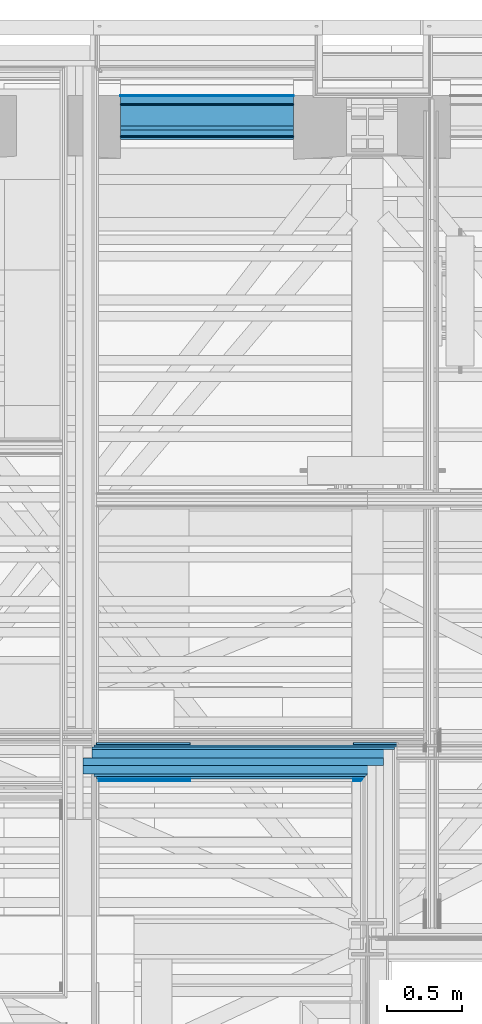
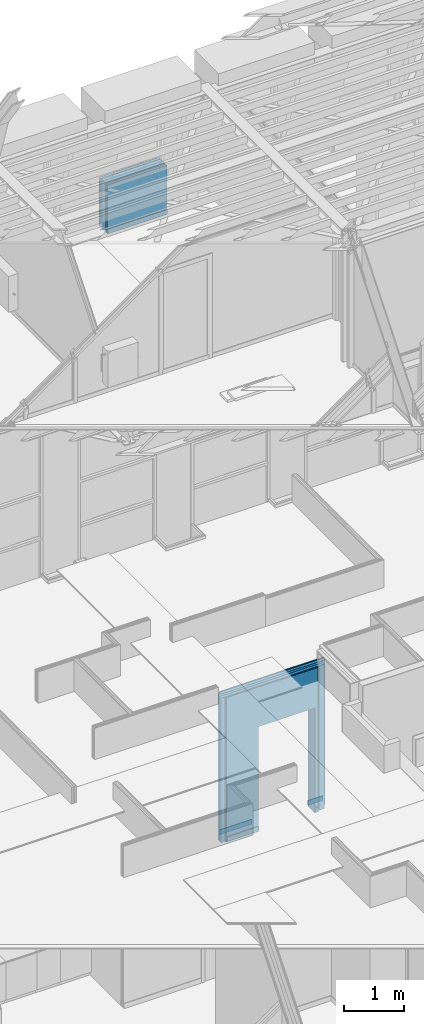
# One storey, part 42 of 183: 17 building element parts, 2 openings, 2 elements without a shape of their own.
"""IFC2X3 building model written with IfcOpenShell, lengths in metres."""

from ifc_helpers import new_model, entity, si_unit, converted_unit, derived_unit, money_unit, direction, frame, frame_2d, origin_with_axes, place, context, subcontext, project, spatial, polyline, rectangle, outline, extrude, material, type_object, element, aggregate, save


model = new_model("IFC2X3")

# Units and contexts
model_context = context("Model", 3, precision=1e-05, world=origin_with_axes(), true_north=direction((0.0, 1.0)))
body_context = subcontext(model_context, "Body", "Model", "MODEL_VIEW", scale=1.0)
ifc_project = project(units=[si_unit("LENGTHUNIT", "METRE"), si_unit("AREAUNIT", "SQUARE_METRE"), si_unit("VOLUMEUNIT", "CUBIC_METRE"), si_unit("ABSORBEDDOSEUNIT", "GRAY"), si_unit("AMOUNTOFSUBSTANCEUNIT", "MOLE"), si_unit("DOSEEQUIVALENTUNIT", "SIEVERT"), si_unit("ELECTRICCAPACITANCEUNIT", "FARAD"), si_unit("ELECTRICCHARGEUNIT", "COULOMB"), si_unit("ELECTRICCONDUCTANCEUNIT", "SIEMENS"), si_unit("ELECTRICCURRENTUNIT", "AMPERE"), si_unit("ELECTRICRESISTANCEUNIT", "OHM"), si_unit("ELECTRICVOLTAGEUNIT", "VOLT"), si_unit("ENERGYUNIT", "JOULE"), si_unit("FORCEUNIT", "NEWTON"), si_unit("FREQUENCYUNIT", "HERTZ"), si_unit("ILLUMINANCEUNIT", "LUX"), si_unit("INDUCTANCEUNIT", "HENRY"), si_unit("LUMINOUSFLUXUNIT", "LUMEN"), si_unit("LUMINOUSINTENSITYUNIT", "CANDELA"), si_unit("MAGNETICFLUXDENSITYUNIT", "TESLA"), si_unit("MAGNETICFLUXUNIT", "WEBER"), si_unit("MASSUNIT", "GRAM"), converted_unit("PLANEANGLEUNIT", "degree", entity("IfcReal", 0.0174532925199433), si_unit("PLANEANGLEUNIT", "RADIAN"), dimensions=[0, 0, 0, 0, 0, 0, 0]), si_unit("POWERUNIT", "WATT"), si_unit("PRESSUREUNIT", "PASCAL"), si_unit("RADIOACTIVITYUNIT", "BECQUEREL"), si_unit("SOLIDANGLEUNIT", "STERADIAN"), si_unit("THERMODYNAMICTEMPERATUREUNIT", "KELVIN"), si_unit("TIMEUNIT", "SECOND"), derived_unit("ACCELERATIONUNIT", [(si_unit("LENGTHUNIT", "METRE"), 1), (si_unit("TIMEUNIT", "SECOND"), -2)]), derived_unit("ANGULARVELOCITYUNIT", [(converted_unit("PLANEANGLEUNIT", "degree", entity("IfcReal", 0.0174532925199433), si_unit("PLANEANGLEUNIT", "RADIAN"), dimensions=[0, 0, 0, 0, 0, 0, 0]), 1), (si_unit("TIMEUNIT", "SECOND"), -1)]), derived_unit("CURVATUREUNIT", [(converted_unit("PLANEANGLEUNIT", "degree", entity("IfcReal", 0.0174532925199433), si_unit("PLANEANGLEUNIT", "RADIAN"), dimensions=[0, 0, 0, 0, 0, 0, 0]), 1), (si_unit("LENGTHUNIT", "METRE"), -1)]), derived_unit("DYNAMICVISCOSITYUNIT", [(si_unit("PRESSUREUNIT", "PASCAL"), 1), (si_unit("TIMEUNIT", "SECOND"), 1)]), derived_unit("HEATFLUXDENSITYUNIT", [(si_unit("POWERUNIT", "WATT"), 1), (si_unit("LENGTHUNIT", "METRE"), -2)]), derived_unit("HEATINGVALUEUNIT", [(si_unit("ENERGYUNIT", "JOULE"), 1), (si_unit("MASSUNIT", "GRAM"), -1)]), derived_unit("INTEGERCOUNTRATEUNIT", [(si_unit("TIMEUNIT", "SECOND"), -1)]), derived_unit("IONCONCENTRATIONUNIT", [(si_unit("MASSUNIT", "GRAM"), 1), (si_unit("VOLUMEUNIT", "CUBIC_METRE"), -1)]), derived_unit("ISOTHERMALMOISTURECAPACITYUNIT", [(si_unit("VOLUMEUNIT", "CUBIC_METRE"), 1), (si_unit("MASSUNIT", "GRAM"), -1)]), derived_unit("KINEMATICVISCOSITYUNIT", [(si_unit("AREAUNIT", "SQUARE_METRE"), 1), (si_unit("TIMEUNIT", "SECOND"), -1)]), derived_unit("LINEARFORCEUNIT", [(si_unit("FORCEUNIT", "NEWTON"), 1), (si_unit("LENGTHUNIT", "METRE"), -1)]), derived_unit("LINEARMOMENTUNIT", [(si_unit("FORCEUNIT", "NEWTON"), 1), (si_unit("LENGTHUNIT", "METRE"), -1)]), derived_unit("LINEARSTIFFNESSUNIT", [(si_unit("FORCEUNIT", "NEWTON"), 1), (si_unit("LENGTHUNIT", "METRE"), -1)]), derived_unit("LINEARVELOCITYUNIT", [(si_unit("LENGTHUNIT", "METRE"), 1), (si_unit("TIMEUNIT", "SECOND"), -1)]), derived_unit("LUMINOUSINTENSITYDISTRIBUTIONUNIT", [(si_unit("LUMINOUSINTENSITYUNIT", "CANDELA"), 1), (si_unit("LUMINOUSFLUXUNIT", "LUMEN"), -1)]), derived_unit("MASSDENSITYUNIT", [(si_unit("MASSUNIT", "GRAM"), 1), (si_unit("VOLUMEUNIT", "CUBIC_METRE"), -1)]), derived_unit("MASSFLOWRATEUNIT", [(si_unit("MASSUNIT", "GRAM"), 1), (si_unit("TIMEUNIT", "SECOND"), -1)]), derived_unit("MASSPERLENGTHUNIT", [(si_unit("MASSUNIT", "GRAM"), 1), (si_unit("LENGTHUNIT", "METRE"), -1)]), derived_unit("MODULUSOFELASTICITYUNIT", [(si_unit("FORCEUNIT", "NEWTON"), 1), (si_unit("AREAUNIT", "SQUARE_METRE"), -1)]), derived_unit("MODULUSOFLINEARSUBGRADEREACTIONUNIT", [(si_unit("FORCEUNIT", "NEWTON"), 1), (si_unit("LENGTHUNIT", "METRE"), -2)]), derived_unit("MODULUSOFROTATIONALSUBGRADEREACTIONUNIT", [(si_unit("FORCEUNIT", "NEWTON"), 1), (si_unit("LENGTHUNIT", "METRE"), 1)]), derived_unit("MODULUSOFSUBGRADEREACTIONUNIT", [(si_unit("FORCEUNIT", "NEWTON"), 1), (si_unit("VOLUMEUNIT", "CUBIC_METRE"), -1)]), derived_unit("MOISTUREDIFFUSIVITYUNIT", [(si_unit("VOLUMEUNIT", "CUBIC_METRE"), 1), (si_unit("TIMEUNIT", "SECOND"), -1)]), derived_unit("MOLECULARWEIGHTUNIT", [(si_unit("MASSUNIT", "GRAM"), 1), (si_unit("AMOUNTOFSUBSTANCEUNIT", "MOLE"), -1)]), derived_unit("PLANARFORCEUNIT", [(si_unit("FORCEUNIT", "NEWTON"), 1), (si_unit("LENGTHUNIT", "METRE"), -2)]), derived_unit("ROTATIONALFREQUENCYUNIT", [(si_unit("TIMEUNIT", "SECOND"), -1)]), derived_unit("ROTATIONALMASSUNIT", [(si_unit("MASSUNIT", "GRAM"), 1), (si_unit("LENGTHUNIT", "METRE"), 2)]), derived_unit("ROTATIONALSTIFFNESSUNIT", [(si_unit("FORCEUNIT", "NEWTON"), 1), (si_unit("LENGTHUNIT", "METRE"), 1), (converted_unit("PLANEANGLEUNIT", "degree", entity("IfcReal", 0.0174532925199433), si_unit("PLANEANGLEUNIT", "RADIAN"), dimensions=[0, 0, 0, 0, 0, 0, 0]), -1)]), derived_unit("SECTIONAREAINTEGRALUNIT", [(si_unit("LENGTHUNIT", "METRE"), 5)]), derived_unit("SECTIONMODULUSUNIT", [(si_unit("LENGTHUNIT", "METRE"), 3)]), derived_unit("SHEARMODULUSUNIT", [(si_unit("FORCEUNIT", "NEWTON"), 1), (si_unit("AREAUNIT", "SQUARE_METRE"), -1)]), derived_unit("SOUNDPOWERUNIT", [(si_unit("ENERGYUNIT", "JOULE"), 1), (si_unit("TIMEUNIT", "SECOND"), -1)]), derived_unit("SPECIFICHEATCAPACITYUNIT", [(si_unit("FORCEUNIT", "NEWTON"), 1), (si_unit("MASSUNIT", "GRAM"), -1), (si_unit("THERMODYNAMICTEMPERATUREUNIT", "KELVIN"), -1)]), derived_unit("TEMPERATUREGRADIENTUNIT", [(si_unit("THERMODYNAMICTEMPERATUREUNIT", "KELVIN"), 1), (si_unit("LENGTHUNIT", "METRE"), -1)]), derived_unit("THERMALADMITTANCEUNIT", [(si_unit("POWERUNIT", "WATT"), 1), (si_unit("AREAUNIT", "SQUARE_METRE"), -1), (si_unit("THERMODYNAMICTEMPERATUREUNIT", "KELVIN"), -1)]), derived_unit("THERMALCONDUCTANCEUNIT", [(si_unit("POWERUNIT", "WATT"), 1), (si_unit("LENGTHUNIT", "METRE"), -1), (si_unit("THERMODYNAMICTEMPERATUREUNIT", "KELVIN"), -1)]), derived_unit("THERMALEXPANSIONCOEFFICIENTUNIT", [(si_unit("THERMODYNAMICTEMPERATUREUNIT", "KELVIN"), -1)]), derived_unit("THERMALRESISTANCEUNIT", [(si_unit("AREAUNIT", "SQUARE_METRE"), 1), (si_unit("POWERUNIT", "WATT"), -1)]), derived_unit("THERMALTRANSMITTANCEUNIT", [(si_unit("POWERUNIT", "WATT"), 1), (si_unit("AREAUNIT", "SQUARE_METRE"), -1), (si_unit("THERMODYNAMICTEMPERATUREUNIT", "KELVIN"), -1)]), derived_unit("TORQUEUNIT", [(si_unit("FORCEUNIT", "NEWTON"), 1), (si_unit("LENGTHUNIT", "METRE"), 1)]), derived_unit("VAPORPERMEABILITYUNIT", [(si_unit("MASSUNIT", "GRAM"), 1), (si_unit("TIMEUNIT", "SECOND"), -1)]), derived_unit("VOLUMETRICFLOWRATEUNIT", [(si_unit("VOLUMEUNIT", "CUBIC_METRE"), 1), (si_unit("TIMEUNIT", "SECOND"), -1)]), derived_unit("WARPINGCONSTANTUNIT", [(si_unit("LENGTHUNIT", "METRE"), 6)]), derived_unit("WARPINGMOMENTUNIT", [(si_unit("FORCEUNIT", "NEWTON"), 1), (si_unit("LENGTHUNIT", "METRE"), 2)]), money_unit("GBP")], contexts=[model_context])

# Site, building, storey
site_placement = place(None, origin_with_axes())
site = spatial("IfcSite", under=ifc_project, at=site_placement, Name="Site", CompositionType="ELEMENT")
building_placement = place(site_placement, origin_with_axes())
building = spatial("IfcBuilding", under=site, at=building_placement, Name="Building01", CompositionType="ELEMENT")
storey_placement = place(building_placement, frame((0.0, 0.0, 5.15), z_axis=(0.0, 0.0, 1.0), x_axis=(1.0, 0.0, 0.0)))
storey = spatial("IfcBuildingStorey", under=building, at=storey_placement, Name="1F", CompositionType="ELEMENT", Elevation=5.15)

# Wall, openings, building element parts
wall_type_1 = type_object("IfcWallType", Name="SHE_A-Walls_Type01c_Partywall_225mm_twin_tall", PredefinedType="NOTDEFINED")
wall_1_placement = place(storey_placement, frame((9.197, 9.949704, 0.0), z_axis=(0.0, 0.0, 1.0), x_axis=(-1.0, 0.0, 0.0)))
wall_1 = element("IfcWall", 1, at=wall_1_placement, inside=storey, type_object=wall_type_1, Name="1C", ObjectType="SHE_A-Walls_Type01c_Partywall_225mm_twin_tall")
opening_1_placement = place(wall_1_placement, frame((-0.931871, -0.153, 0.0), z_axis=(0.0, 0.0, 1.0), x_axis=(1.0, 0.0, 0.0)))
element("IfcOpeningElement", 2, at=opening_1_placement, cuts=wall_1, Name="Opening", ObjectType="Recess", context=body_context, shape_type="SweptSolid", body=[
    extrude(rectangle(XDim=2.142, YDim=0.834, at=frame_2d((-0.417, 1.071), x_axis=(0.0, -1.0))), frame((0.0, 0.0, 0.0), z_axis=(0.0, 1.0, 0.0), x_axis=(-1.0, 0.0, 0.0)), (0.0, 0.0, 1.0), 0.015),
])
opening_2_placement = place(wall_1_placement, frame((0.200331, -0.153, 0.0), z_axis=(0.0, 0.0, 1.0), x_axis=(1.0, 0.0, 0.0)))
element("IfcOpeningElement", 3, at=opening_2_placement, cuts=wall_1, Name="Opening", ObjectType="Opening", context=body_context, shape_type="SweptSolid", body=[
    extrude(rectangle(XDim=1.084, YDim=2.142, at=frame_2d((-0.542, 1.071), x_axis=(-1.0, 0.0))), frame((0.0, 0.0, 0.0), z_axis=(0.0, 1.0, 0.0), x_axis=(-1.0, 0.0, 0.0)), (0.0, 0.0, 1.0), 0.255),
])
ifc_material_1 = material(Name="A_BSUK_Walls_Timber")
placement_1 = place(wall_1_placement, origin_with_axes())
building_element_part_1 = element("IfcBuildingElementPart", 4, at=placement_1, material=ifc_material_1, Name="1", context=body_context, shape_type="SweptSolid", body=[
    extrude(outline(polyline([(1.907331, -0.138), (-0.088, -0.138), (-0.103, -0.153), (1.907331, -0.153), (1.907331, -0.138)])), frame((0.0, 0.0, 0.015), z_axis=(0.0, 0.0, 1.0), x_axis=(1.0, 0.0, 0.0)), (0.0, 0.0, 1.0), 0.1),
])
ifc_material_2 = material(Name="A_BSUK_WallInternal_Finishes_Plasterboard")
building_element_part_2 = element("IfcBuildingElementPart", 5, at=placement_1, material=ifc_material_2, Name="2", context=body_context, shape_type="SweptSolid", body=[
    extrude(rectangle(XDim=2.010331, YDim=0.015, at=frame_2d((0.917166, -0.1305), x_axis=(-1.0, 0.0))), origin_with_axes(), (0.0, 0.0, 1.0), 2.95),
])
building_element_part_3 = element("IfcBuildingElementPart", 6, at=placement_1, material=ifc_material_2, Name="3", context=body_context, shape_type="SweptSolid", body=[
    extrude(rectangle(XDim=2.010331, YDim=0.015, at=frame_2d((0.932166, -0.1155), x_axis=(-1.0, 0.0))), origin_with_axes(), (0.0, 0.0, 1.0), 2.95),
])
ifc_material_3 = material(Name="Air Cavity")
building_element_part_4 = element("IfcBuildingElementPart", 7, at=placement_1, material=ifc_material_3, Name="4", context=body_context, shape_type="SweptSolid", body=[
    extrude(rectangle(XDim=2.010331, YDim=0.058, at=frame_2d((0.932166, -0.079), x_axis=(-1.0, 0.0))), origin_with_axes(), (0.0, 0.0, 1.0), 2.95),
])
ifc_material_4 = material(Name="A_BSUK_Insulation")
building_element_part_5 = element("IfcBuildingElementPart", 8, at=placement_1, material=ifc_material_4, Name="5", context=body_context, shape_type="SweptSolid", body=[
    extrude(rectangle(XDim=1.995331, YDim=0.05, at=frame_2d((0.997666, -0.025), x_axis=(-1.0, 0.0))), origin_with_axes(), (0.0, 0.0, 1.0), 2.95),
])
building_element_part_6 = element("IfcBuildingElementPart", 9, at=placement_1, material=ifc_material_3, Name="6", context=body_context, shape_type="SweptSolid", body=[
    extrude(rectangle(XDim=1.995331, YDim=0.057, at=frame_2d((0.997666, 0.0285), x_axis=(-1.0, 0.0))), origin_with_axes(), (0.0, 0.0, 1.0), 2.95),
])
building_element_part_7 = element("IfcBuildingElementPart", 10, at=placement_1, material=ifc_material_2, Name="7", context=body_context, shape_type="SweptSolid", body=[
    extrude(outline(polyline([(1.922331, 0.072), (0.122, 0.072), (0.107, 0.057), (1.922331, 0.057), (1.922331, 0.072)])), origin_with_axes(), (0.0, 0.0, 1.0), 2.95),
])
building_element_part_8 = element("IfcBuildingElementPart", 11, at=placement_1, material=ifc_material_2, Name="8", context=body_context, shape_type="SweptSolid", body=[
    extrude(outline(polyline([(1.907331, 0.087), (0.137, 0.087), (0.122, 0.072), (1.907331, 0.072), (1.907331, 0.087)])), origin_with_axes(), (0.0, 0.0, 1.0), 2.95),
])
building_element_part_9 = element("IfcBuildingElementPart", 12, at=placement_1, material=ifc_material_1, Name="9", context=body_context, shape_type="SweptSolid", body=[
    extrude(outline(polyline([(1.892331, 0.102), (0.152, 0.102), (0.137, 0.087), (1.892331, 0.087), (1.892331, 0.102)])), frame((0.0, 0.0, 0.015), z_axis=(0.0, 0.0, 1.0), x_axis=(1.0, 0.0, 0.0)), (0.0, 0.0, 1.0), 0.1),
])
aggregate(wall_1, [building_element_part_1, building_element_part_2, building_element_part_3, building_element_part_4, building_element_part_5, building_element_part_6, building_element_part_7, building_element_part_8, building_element_part_9])

# Wall, building element parts
wall_type_2 = type_object("IfcWallType", Name="SHE_A-Walls_Type06e_ExternalWallPenthouse_280mm", PredefinedType="NOTDEFINED")
wall_2_placement = place(storey_placement, frame((7.450024, 14.335061, 9.78), z_axis=(0.0, 0.0, 1.0), x_axis=(1.0, 0.0, 0.0)))
wall_2 = element("IfcWall", 13, at=wall_2_placement, inside=storey, type_object=wall_type_2, Name="6E", ObjectType="SHE_A-Walls_Type06e_ExternalWallPenthouse_280mm")
placement_2 = place(wall_2_placement, origin_with_axes())
building_element_part_10 = element("IfcBuildingElementPart", 14, at=placement_2, material=ifc_material_1, Name="1", context=body_context, shape_type="SweptSolid", body=[
    extrude(rectangle(XDim=1.149951, YDim=0.015, at=frame_2d((0.574976, -0.2225), x_axis=(-1.0, 0.0))), frame((0.0, 0.0, 0.015), z_axis=(0.0, 0.0, 1.0), x_axis=(1.0, 0.0, 0.0)), (0.0, 0.0, 1.0), 0.1),
])
building_element_part_11 = element("IfcBuildingElementPart", 15, at=placement_2, material=ifc_material_2, Name="2", context=body_context, shape_type="SweptSolid", body=[
    extrude(rectangle(XDim=1.149951, YDim=0.01, at=frame_2d((0.574976, -0.21), x_axis=(-1.0, 0.0))), origin_with_axes(), (0.0, 0.0, 1.0), 1.0),
])
building_element_part_12 = element("IfcBuildingElementPart", 16, at=placement_2, material=ifc_material_4, Name="3", context=body_context, shape_type="SweptSolid", body=[
    extrude(rectangle(XDim=1.149951, YDim=0.04, at=frame_2d((0.574976, -0.185), x_axis=(-1.0, 0.0))), origin_with_axes(), (0.0, 0.0, 1.0), 1.0),
])
building_element_part_13 = element("IfcBuildingElementPart", 17, at=placement_2, material=ifc_material_3, Name="4", context=body_context, shape_type="SweptSolid", body=[
    extrude(rectangle(XDim=1.149951, YDim=0.025, at=frame_2d((0.574976, -0.1525), x_axis=(-1.0, 0.0))), origin_with_axes(), (0.0, 0.0, 1.0), 1.0),
])
building_element_part_14 = element("IfcBuildingElementPart", 18, at=placement_2, material=ifc_material_4, Name="5", context=body_context, shape_type="SweptSolid", body=[
    extrude(rectangle(XDim=1.149951, YDim=0.14, at=frame_2d((0.574976, -0.07), x_axis=(-1.0, 0.0))), origin_with_axes(), (0.0, 0.0, 1.0), 1.0),
])
building_element_part_15 = element("IfcBuildingElementPart", 19, at=placement_2, material=ifc_material_1, Name="6", context=body_context, shape_type="SweptSolid", body=[
    extrude(rectangle(XDim=1.149951, YDim=0.01, at=frame_2d((0.574976, 0.005), x_axis=(-1.0, 0.0))), origin_with_axes(), (0.0, 0.0, 1.0), 1.0),
])
building_element_part_16 = element("IfcBuildingElementPart", 20, at=placement_2, material=ifc_material_3, Name="7", context=body_context, shape_type="SweptSolid", body=[
    extrude(rectangle(XDim=1.149951, YDim=0.05, at=frame_2d((0.574976, 0.035), x_axis=(-1.0, 0.0))), origin_with_axes(), (0.0, 0.0, 1.0), 1.0),
])
ifc_material_5 = material(Name="A_BSUK_WallInternal_Finishes_Metal")
building_element_part_17 = element("IfcBuildingElementPart", 21, at=placement_2, material=ifc_material_5, Name="8", context=body_context, shape_type="SweptSolid", body=[
    extrude(rectangle(XDim=1.149951, YDim=0.005, at=frame_2d((0.574976, 0.0625), x_axis=(-1.0, 0.0))), origin_with_axes(), (0.0, 0.0, 1.0), 1.0),
])
aggregate(wall_2, [building_element_part_10, building_element_part_11, building_element_part_12, building_element_part_13, building_element_part_14, building_element_part_15, building_element_part_16, building_element_part_17])

save(model, "model.ifc")
